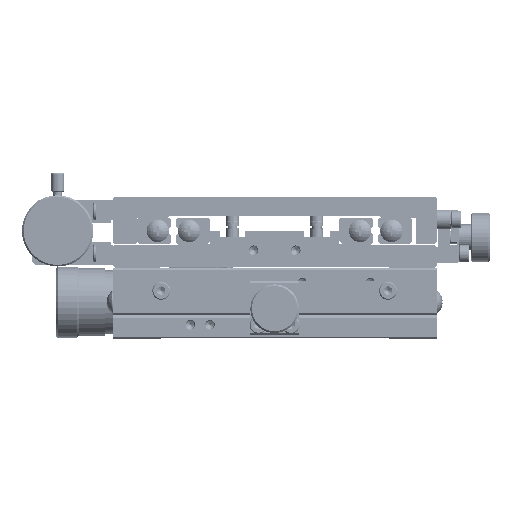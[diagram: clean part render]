
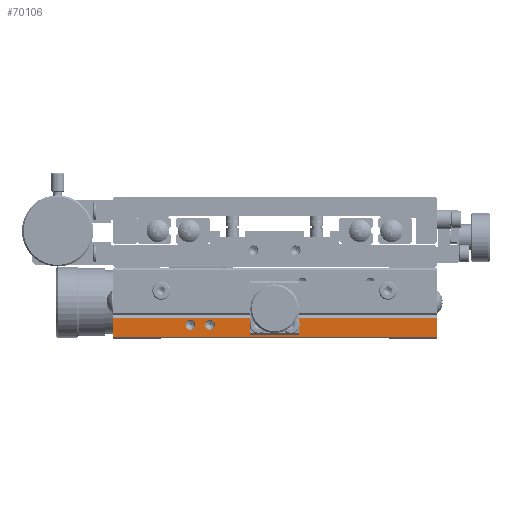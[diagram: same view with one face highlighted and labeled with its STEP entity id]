
A CAD part, left-side view. The second image highlights one B-rep face of the part: STEP entity #70106.
In plain terms, the highlighted planar face has unit normal (-1, 0, 0).
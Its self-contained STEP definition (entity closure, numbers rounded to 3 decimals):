
#33001 = VERTEX_POINT ( 'NONE', #102514 ) ;
#33061 = EDGE_CURVE ( 'NONE', #33252, #33062, #102221, .T. ) ;
#33062 = VERTEX_POINT ( 'NONE', #102335 ) ;
#33152 = EDGE_CURVE ( 'NONE', #33001, #33153, #102625, .T. ) ;
#33153 = VERTEX_POINT ( 'NONE', #102620 ) ;
#33252 = VERTEX_POINT ( 'NONE', #102654 ) ;
#36424 = VERTEX_POINT ( 'NONE', #62183 ) ;
#36430 = EDGE_CURVE ( 'NONE', #36424, #36433, #62167, .T. ) ;
#36433 = VERTEX_POINT ( 'NONE', #62161 ) ;
#36858 = CARTESIAN_POINT ( 'NONE',  ( -50., -50., 6.5 ) ) ;
#37042 = CARTESIAN_POINT ( 'NONE',  ( -50., -50., 0.8 ) ) ;
#37044 = DIRECTION ( 'NONE',  ( 0., 0., 1. ) ) ;
#37046 = VECTOR ( 'NONE', #37044, 1000. ) ;
#37048 = CARTESIAN_POINT ( 'NONE',  ( -50., -50., 0.8 ) ) ;
#37049 = LINE ( 'NONE', #37048, #37046 ) ;
#37205 = DIRECTION ( 'NONE',  ( 0., 1., 0. ) ) ;
#37206 = VECTOR ( 'NONE', #37205, 1000. ) ;
#37208 = CARTESIAN_POINT ( 'NONE',  ( -50., -50., 0.8 ) ) ;
#37209 = LINE ( 'NONE', #37208, #37206 ) ;
#37218 = CARTESIAN_POINT ( 'NONE',  ( -50., -7.5, 6.5 ) ) ;
#37221 = CARTESIAN_POINT ( 'NONE',  ( -50., -7.5, 1.5 ) ) ;
#37223 = DIRECTION ( 'NONE',  ( 0., 0., 1. ) ) ;
#37225 = VECTOR ( 'NONE', #37223, 1000. ) ;
#37227 = CARTESIAN_POINT ( 'NONE',  ( -50., -7.5, 1.5 ) ) ;
#37228 = LINE ( 'NONE', #37227, #37225 ) ;
#37233 = DIRECTION ( 'NONE',  ( 0., 1., 0. ) ) ;
#37235 = DIRECTION ( 'NONE',  ( -1., 0., 0. ) ) ;
#37236 = AXIS2_PLACEMENT_3D ( 'NONE', #37239, #37235, #37233 ) ;
#37239 = CARTESIAN_POINT ( 'NONE',  ( -50., -50., 0.8 ) ) ;
#37240 = PLANE ( 'NONE',  #37236 ) ;
#37241 = FACE_BOUND ( 'NONE', #71003, .T. ) ;
#37242 = FACE_BOUND ( 'NONE', #70997, .T. ) ;
#37243 = FACE_OUTER_BOUND ( 'NONE', #70110, .T. ) ;
#38160 = DIRECTION ( 'NONE',  ( 0., -1., 0. ) ) ;
#38161 = DIRECTION ( 'NONE',  ( -1., 0., 0. ) ) ;
#38162 = CARTESIAN_POINT ( 'NONE',  ( -50., 20., 4.5 ) ) ;
#38163 = AXIS2_PLACEMENT_3D ( 'NONE', #38162, #38161, #38160 ) ;
#38164 = CIRCLE ( 'NONE', #38163, 1.5 ) ;
#38166 = DIRECTION ( 'NONE',  ( 0., 1., 0. ) ) ;
#38167 = VECTOR ( 'NONE', #38166, 1000. ) ;
#38168 = CARTESIAN_POINT ( 'NONE',  ( -50., -50., 6.5 ) ) ;
#38169 = LINE ( 'NONE', #38168, #38167 ) ;
#38170 = DIRECTION ( 'NONE',  ( 0., 1., 0. ) ) ;
#38171 = VECTOR ( 'NONE', #38170, 1000. ) ;
#38172 = CARTESIAN_POINT ( 'NONE',  ( -50., -50., 6.5 ) ) ;
#38173 = LINE ( 'NONE', #38172, #38171 ) ;
#38176 = CARTESIAN_POINT ( 'NONE',  ( -50., 7.5, 6.5 ) ) ;
#38177 = DIRECTION ( 'NONE',  ( 0., 0., 1. ) ) ;
#38179 = VECTOR ( 'NONE', #38177, 1000. ) ;
#38180 = CARTESIAN_POINT ( 'NONE',  ( -50., 7.5, 1.5 ) ) ;
#38181 = LINE ( 'NONE', #38180, #38179 ) ;
#38187 = CARTESIAN_POINT ( 'NONE',  ( -50., 7.5, 1.5 ) ) ;
#38189 = DIRECTION ( 'NONE',  ( 0., -1., 0. ) ) ;
#38191 = VECTOR ( 'NONE', #38189, 1000. ) ;
#38192 = CARTESIAN_POINT ( 'NONE',  ( -50., 7.5, 1.5 ) ) ;
#38194 = LINE ( 'NONE', #38192, #38191 ) ;
#38257 = DIRECTION ( 'NONE',  ( 0., -1., 0. ) ) ;
#38258 = DIRECTION ( 'NONE',  ( -1., 0., 0. ) ) ;
#38260 = CARTESIAN_POINT ( 'NONE',  ( -50., 26., 4.5 ) ) ;
#38262 = AXIS2_PLACEMENT_3D ( 'NONE', #38260, #38258, #38257 ) ;
#38263 = CIRCLE ( 'NONE', #38262, 1.5 ) ;
#62161 = CARTESIAN_POINT ( 'NONE',  ( -50., 50., 6.5 ) ) ;
#62163 = DIRECTION ( 'NONE',  ( 0., 0., 1. ) ) ;
#62164 = VECTOR ( 'NONE', #62163, 1000. ) ;
#62166 = CARTESIAN_POINT ( 'NONE',  ( -50., 50., 0.8 ) ) ;
#62167 = LINE ( 'NONE', #62166, #62164 ) ;
#62183 = CARTESIAN_POINT ( 'NONE',  ( -50., 50., 0.8 ) ) ;
#69936 = VERTEX_POINT ( 'NONE', #36858 ) ;
#70020 = EDGE_CURVE ( 'NONE', #70023, #69936, #37049, .T. ) ;
#70023 = VERTEX_POINT ( 'NONE', #37042 ) ;
#70106 = ADVANCED_FACE ( 'NONE', ( #37243, #37242, #37241 ), #37240, .T. ) ;
#70110 = EDGE_LOOP ( 'NONE', ( #70112, #70119, #70979, #70986, #70988, #70989, #70990, #70992 ) ) ;
#70112 = ORIENTED_EDGE ( 'NONE', *, *, #70114, .F. ) ;
#70114 = EDGE_CURVE ( 'NONE', #70117, #70118, #37228, .T. ) ;
#70117 = VERTEX_POINT ( 'NONE', #37221 ) ;
#70118 = VERTEX_POINT ( 'NONE', #37218 ) ;
#70119 = ORIENTED_EDGE ( 'NONE', *, *, #70976, .F. ) ;
#70132 = EDGE_CURVE ( 'NONE', #70023, #36424, #37209, .T. ) ;
#70976 = EDGE_CURVE ( 'NONE', #70977, #70117, #38194, .T. ) ;
#70977 = VERTEX_POINT ( 'NONE', #38187 ) ;
#70979 = ORIENTED_EDGE ( 'NONE', *, *, #70981, .T. ) ;
#70981 = EDGE_CURVE ( 'NONE', #70977, #70983, #38181, .T. ) ;
#70983 = VERTEX_POINT ( 'NONE', #38176 ) ;
#70986 = ORIENTED_EDGE ( 'NONE', *, *, #70987, .T. ) ;
#70987 = EDGE_CURVE ( 'NONE', #70983, #36433, #38173, .T. ) ;
#70988 = ORIENTED_EDGE ( 'NONE', *, *, #36430, .F. ) ;
#70989 = ORIENTED_EDGE ( 'NONE', *, *, #70132, .F. ) ;
#70990 = ORIENTED_EDGE ( 'NONE', *, *, #70020, .T. ) ;
#70992 = ORIENTED_EDGE ( 'NONE', *, *, #70994, .T. ) ;
#70994 = EDGE_CURVE ( 'NONE', #69936, #70118, #38169, .T. ) ;
#70997 = EDGE_LOOP ( 'NONE', ( #70998, #71000 ) ) ;
#70998 = ORIENTED_EDGE ( 'NONE', *, *, #70999, .F. ) ;
#70999 = EDGE_CURVE ( 'NONE', #33153, #33001, #38164, .T. ) ;
#71000 = ORIENTED_EDGE ( 'NONE', *, *, #33152, .F. ) ;
#71003 = EDGE_LOOP ( 'NONE', ( #71005, #71007 ) ) ;
#71005 = ORIENTED_EDGE ( 'NONE', *, *, #71006, .F. ) ;
#71006 = EDGE_CURVE ( 'NONE', #33062, #33252, #38263, .T. ) ;
#71007 = ORIENTED_EDGE ( 'NONE', *, *, #33061, .F. ) ;
#102213 = DIRECTION ( 'NONE',  ( 0., -1., 0. ) ) ;
#102215 = DIRECTION ( 'NONE',  ( -1., 0., 0. ) ) ;
#102217 = CARTESIAN_POINT ( 'NONE',  ( -50., 26., 4.5 ) ) ;
#102219 = AXIS2_PLACEMENT_3D ( 'NONE', #102217, #102215, #102213 ) ;
#102221 = CIRCLE ( 'NONE', #102219, 1.5 ) ;
#102335 = CARTESIAN_POINT ( 'NONE',  ( -50., 24.5, 4.5 ) ) ;
#102514 = CARTESIAN_POINT ( 'NONE',  ( -50., 21.5, 4.5 ) ) ;
#102620 = CARTESIAN_POINT ( 'NONE',  ( -50., 18.5, 4.5 ) ) ;
#102621 = DIRECTION ( 'NONE',  ( 0., -1., 0. ) ) ;
#102622 = DIRECTION ( 'NONE',  ( -1., 0., 0. ) ) ;
#102623 = CARTESIAN_POINT ( 'NONE',  ( -50., 20., 4.5 ) ) ;
#102624 = AXIS2_PLACEMENT_3D ( 'NONE', #102623, #102622, #102621 ) ;
#102625 = CIRCLE ( 'NONE', #102624, 1.5 ) ;
#102654 = CARTESIAN_POINT ( 'NONE',  ( -50., 27.5, 4.5 ) ) ;
